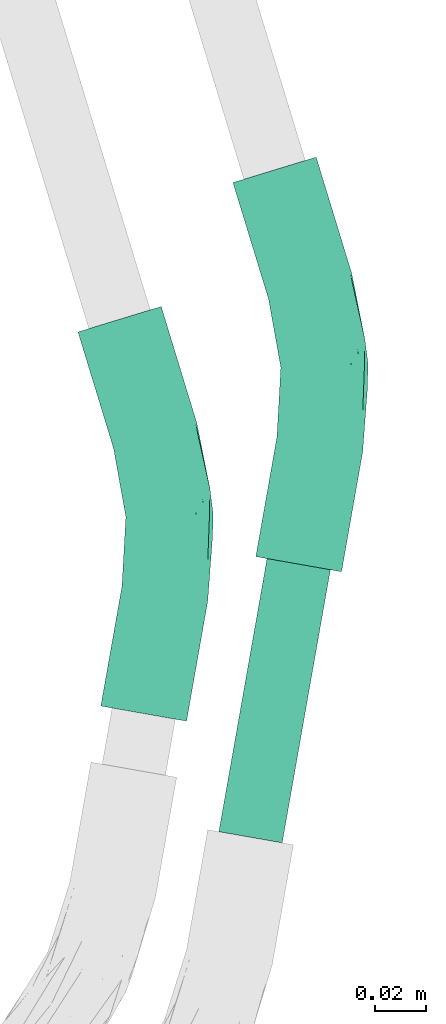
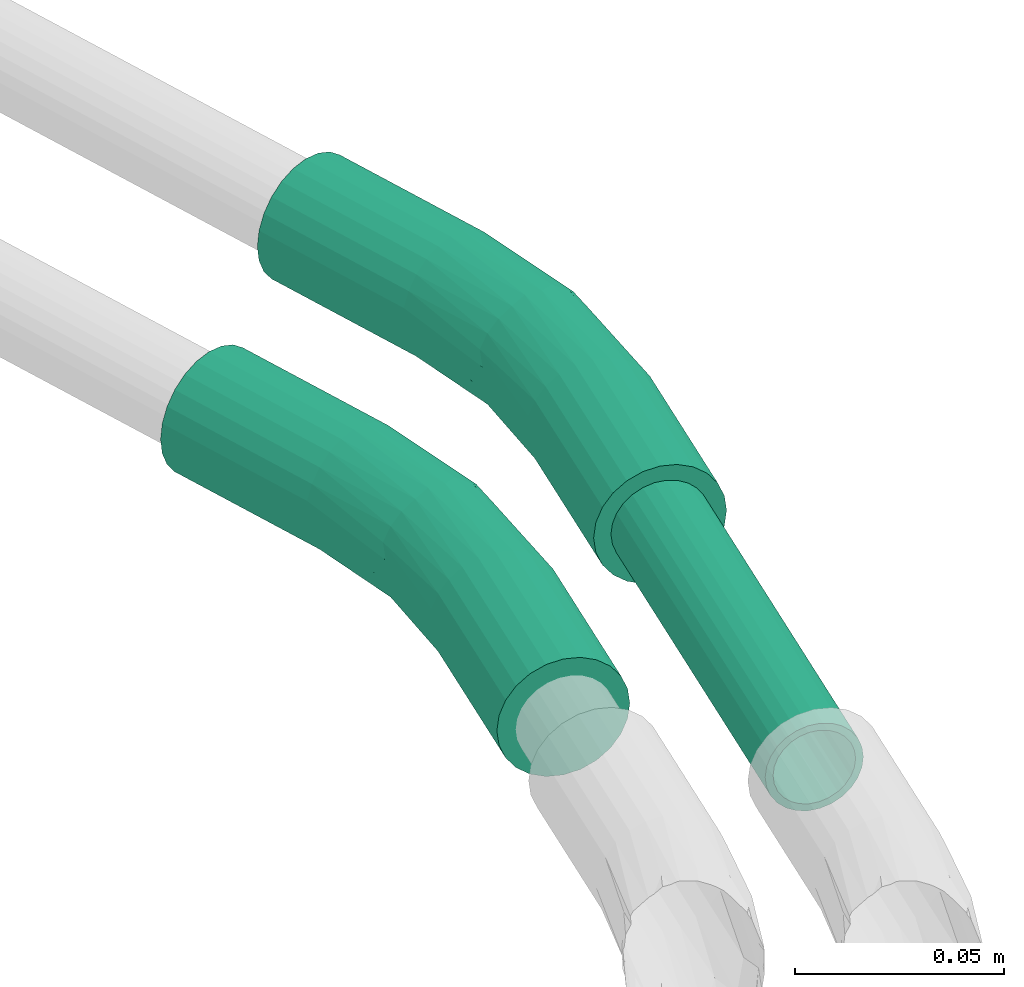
# One storey, part 16 of 22: 2 flow fittings, 1 flow segment.
"""IFC2X3 building model written with IfcOpenShell, lengths in millimetres."""

from ifc_helpers import new_model, entity, si_unit, converted_unit, derived_unit, direction, frame, origin_with_axes, origin_2d_with_axis, place, context, subcontext, project, spatial, hollow_circle, extrude, open_shell, surface_model, source, transform, mapped, type_object, element, save


model = new_model("IFC2X3")

# Units and contexts
model_context = context("Model", 3, precision=0.01, world=frame((0.0, 4.29681676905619e-09, 0.0)), true_north=direction((4.01073788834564e-13, 1.0)))
plan_context = context("Plan", 3, precision=0.01, world=frame((0.0, 4.29681676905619e-09, 0.0)), true_north=direction((4.01073788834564e-13, 1.0)))
body_context = subcontext(model_context, "Body", "Model", "MODEL_VIEW")
ifc_project = project(units=[converted_unit("PLANEANGLEUNIT", "DEGREE", entity("IfcPositiveLengthMeasure", 0.0174532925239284), si_unit("PLANEANGLEUNIT", "RADIAN"), dimensions=[0, 0, 0, 0, 0, 0, 0]), si_unit("AREAUNIT", "SQUARE_METRE"), si_unit("LENGTHUNIT", "METRE", prefix="MILLI"), si_unit("MASSUNIT", "GRAM", prefix="KILO"), si_unit("POWERUNIT", "WATT"), si_unit("PRESSUREUNIT", "PASCAL", prefix="KILO"), si_unit("FORCEUNIT", "NEWTON", prefix="KILO"), si_unit("ELECTRICVOLTAGEUNIT", "VOLT"), si_unit("ELECTRICCURRENTUNIT", "AMPERE"), si_unit("THERMODYNAMICTEMPERATUREUNIT", "DEGREE_CELSIUS"), si_unit("TIMEUNIT", "SECOND"), si_unit("VOLUMEUNIT", "CUBIC_METRE"), derived_unit("LINEARVELOCITYUNIT", [(si_unit("LENGTHUNIT", "METRE"), 1), (si_unit("TIMEUNIT", "SECOND"), -1)]), derived_unit("VOLUMETRICFLOWRATEUNIT", [(si_unit("VOLUMEUNIT", "CUBIC_METRE"), 1), (si_unit("TIMEUNIT", "SECOND"), -1)]), derived_unit("THERMALTRANSMITTANCEUNIT", [(si_unit("POWERUNIT", "WATT"), 1), (si_unit("THERMODYNAMICTEMPERATUREUNIT", "KELVIN"), -1), (si_unit("AREAUNIT", "SQUARE_METRE"), -1)]), derived_unit("SOUNDPRESSUREUNIT", [(si_unit("PRESSUREUNIT", "PASCAL"), 1)])], contexts=[model_context, plan_context])

# Site, building, storey
site_placement = place(None, frame((0.0, -4.29681676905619e-09, 0.0), z_axis=(0.0, 0.0, 1.0), x_axis=(1.0, 0.0, 0.0)))
site = spatial("IfcSite", under=ifc_project, at=site_placement, Name="ENGM", CompositionType="ELEMENT")
building_placement = place(site_placement, frame((0.0, 4.29681676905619e-09, 0.0), z_axis=(0.0, 0.0, 1.0), x_axis=(1.0, 0.0, 0.0)))
building = spatial("IfcBuilding", under=site, at=building_placement, Name="TI", CompositionType="ELEMENT")
storey_placement = place(building_placement, frame((0.0, 0.0, 210900.0), z_axis=(0.0, 0.0, 1.0), x_axis=(1.0, 0.0, 0.0)))
storey = spatial("IfcBuildingStorey", under=building, at=storey_placement, Name="Nivå F", CompositionType="ELEMENT", Elevation=210900.0)

# Flow fittings
cable_carrier_fitting_type = type_object("IfcCableCarrierFittingType", Name="Trekkerør, glatt bend", PredefinedType="BEND")
shared_shape_1 = source(origin_with_axes(), body_context, "Body", "SurfaceModel", [
    surface_model("IfcShellBasedSurfaceModel", [(-78.95754, 8.46055, -14.6541), (-78.95754, 4.3795, -16.34452), (-78.95754, 0.0, -16.92109), (-78.95754, -4.3795, -16.34452), (-78.95754, -8.46055, -14.6541), (-78.95754, -14.6541, -8.46055), (-78.95754, 16.92109, 0.0), (-78.95754, -11.96502, -11.96502), (-78.95754, -11.96502, 11.96502), (-78.95754, 14.6541, -8.46055), (-78.95754, 11.96502, -11.96502), (-78.95754, 16.34452, -4.3795), (-78.95754, -16.34452, -4.3795), (-78.95754, -16.92109, 0.0), (-78.95754, -16.34452, 4.3795), (-78.95754, -14.6541, 8.46055), (-78.95754, 0.0, 16.92109), (-78.95754, -8.46055, 14.6541), (-78.95754, -4.3795, 16.34452), (-78.95754, 14.6541, 8.46055), (-78.95754, 8.46055, 14.6541), (-78.95754, 11.96502, 11.96502), (-78.95754, 16.34452, 4.3795), (-78.95754, 4.3795, 16.34452), (-31.63957, 16.34452, 4.3795), (-31.63957, 16.92109, 0.0), (-31.63957, 14.6541, 8.46055), (-31.63957, 8.46055, 14.6541), (-31.63957, 11.96502, 11.96502), (-31.63957, 4.3795, 16.34452), (-31.63957, 0.0, 16.92109), (-31.63957, -8.46055, 14.6541), (-31.63957, -4.3795, 16.34452), (-31.63957, -11.96502, 11.96502), (-31.63957, -16.34452, 4.3795), (-31.63957, -14.6541, 8.46055), (-31.63957, -16.92109, 0.0), (-31.63957, -16.34452, -4.3795), (-31.63957, -14.6541, -8.46055), (-31.63957, -8.46055, -14.6541), (-31.63957, -11.96502, -11.96502), (-31.63957, -4.3795, -16.34452), (-31.63957, 0.0, -16.92109), (-31.63957, 8.46055, -14.6541), (-31.63957, 4.3795, -16.34452), (-31.63957, 11.96502, -11.96502), (-31.63957, 16.34452, -4.3795), (-31.63957, 14.6541, -8.46055), (-1.10332, 10.22349, 10.24195), (1.54545, 6.43726, 13.37501), (2.78273, 11.59092, 6.39757), (34.84388, -1.30717, 8.46055), (35.61132, 0.19901, 4.3795), (-1.45897, 3.21124, 15.60459), (-0.34065, -1.4189, 16.76603), (-2.18473, -5.5255, 16.78582), (-2.36982, -9.871, 15.66134), (28.19106, -14.36406, 16.92109), (30.17931, -10.4619, 16.34452), (32.03207, -6.82566, 14.6541), (33.62307, -3.70315, 11.96502), (-3.99795, -16.65265, 10.35717), (-3.26542, -13.60146, 13.46853), (-2.07775, -20.44675, 3.33516), (-4.51744, -18.81648, 6.53948), (-5.77387, 14.33246, 3.25985), (3.07595, 12.81224, 0.0), (24.35005, -21.90246, 14.6541), (26.20281, -18.26623, 16.34452), (-4.82435, -20.09488, 0.0), (35.87308, 0.71274, 0.0), (20.7708, -28.92714, 4.3795), (20.50905, -29.44087, 0.0), (22.75906, -25.02497, 11.96502), (21.53824, -27.42096, 8.46055), (-0.34065, -1.4189, -16.76603), (-7.43134, -19.16146, -3.33516), (-0.56192, -5.9151, -16.78582), (-4.51744, -18.81648, -6.53948), (35.61132, 0.19901, -4.3795), (2.78273, 11.59092, -6.39757), (11.65136, 10.14903, -3.25985), (-3.26542, -13.60146, -13.46853), (2.75782, 2.19888, -15.60459), (32.03207, -6.82566, -14.6541), (30.17931, -10.4619, -16.34452), (-2.36982, -9.871, -15.66134), (21.53824, -27.42096, -8.46055), (-3.99795, -16.65265, -10.35717), (1.54545, 6.43726, -13.37501), (5.62444, 8.6083, -10.24195), (20.7708, -28.92714, -4.3795), (24.35005, -21.90246, -14.6541), (22.75906, -25.02497, -11.96502), (34.84388, -1.30717, -8.46055), (33.62307, -3.70315, -11.96502), (26.20281, -18.26623, -16.34452), (28.19106, -14.36406, -16.92109), (70.35168, -35.84597, -16.92109), (72.33993, -31.94381, -16.34452), (68.36343, -39.74814, -16.34452), (66.51067, -43.38437, -14.6541), (63.69886, -48.90287, -8.46055), (64.91967, -46.50688, -11.96502), (77.77193, -21.2829, -4.3795), (77.0045, -22.78908, 8.46055), (74.19269, -28.30757, -14.6541), (75.78368, -25.18506, -11.96502), (77.0045, -22.78908, -8.46055), (78.0337, -20.76917, 0.0), (62.93142, -50.40905, -4.3795), (62.93142, -50.40905, 4.3795), (63.69886, -48.90287, 8.46055), (68.36343, -39.74814, 16.34452), (66.51067, -43.38437, 14.6541), (64.91967, -46.50688, 11.96502), (70.35168, -35.84597, 16.92109), (75.78368, -25.18506, 11.96502), (74.19269, -28.30757, 14.6541), (77.77193, -21.2829, 4.3795), (72.33993, -31.94381, 16.34452), (62.66966, -50.92278, 0.0)], [open_shell([[[0, 1, 2]], [[2, 3, 4]], [[2, 4, 5]], [[2, 5, 6]], [[5, 4, 7]], [[8, 6, 5]], [[0, 9, 10]], [[0, 11, 9]], [[0, 2, 11]], [[6, 11, 2]], [[5, 12, 8]], [[13, 14, 15]], [[13, 15, 8]], [[16, 6, 17]], [[6, 8, 17]], [[16, 17, 18]], [[19, 20, 21]], [[19, 22, 6]], [[20, 16, 23]], [[20, 19, 6]], [[20, 6, 16]], [[12, 13, 8]], [[24, 25, 22]], [[24, 19, 26]], [[27, 28, 20]], [[21, 28, 26]], [[29, 27, 23]], [[6, 22, 25]], [[22, 19, 24]], [[19, 21, 26]], [[21, 20, 28]], [[27, 20, 23]], [[23, 16, 29]], [[16, 30, 29]], [[31, 32, 17]], [[31, 8, 33]], [[34, 35, 14]], [[15, 35, 33]], [[36, 34, 13]], [[30, 18, 32]], [[18, 17, 32]], [[16, 18, 30]], [[17, 8, 31]], [[8, 15, 33]], [[35, 15, 14]], [[14, 13, 34]], [[37, 36, 12]], [[37, 5, 38]], [[39, 40, 4]], [[7, 40, 38]], [[41, 39, 3]], [[13, 12, 36]], [[12, 5, 37]], [[5, 7, 38]], [[7, 4, 40]], [[39, 4, 3]], [[3, 2, 41]], [[2, 42, 41]], [[43, 44, 0]], [[43, 10, 45]], [[46, 47, 11]], [[9, 47, 45]], [[25, 46, 6]], [[42, 1, 44]], [[1, 0, 44]], [[2, 1, 42]], [[0, 10, 43]], [[10, 9, 45]], [[47, 9, 11]], [[11, 6, 46]], [[48, 28, 49]], [[49, 28, 27]], [[48, 26, 28]], [[50, 51, 52]], [[53, 27, 29]], [[29, 54, 53]], [[55, 30, 32]], [[54, 29, 30]], [[55, 32, 56]], [[54, 57, 58]], [[24, 26, 50]], [[49, 59, 60]], [[35, 61, 33]], [[31, 33, 62]], [[50, 48, 51]], [[48, 50, 26]], [[49, 53, 59]], [[34, 63, 64]], [[24, 50, 65]], [[63, 34, 36]], [[64, 35, 34]], [[55, 54, 30]], [[56, 32, 31]], [[53, 49, 27]], [[65, 66, 25]], [[56, 67, 68]], [[58, 59, 53]], [[58, 53, 54]], [[36, 69, 63]], [[56, 68, 55]], [[48, 49, 60]], [[66, 65, 52]], [[51, 48, 60]], [[52, 70, 66]], [[24, 65, 25]], [[71, 64, 63]], [[72, 63, 69]], [[62, 73, 67]], [[31, 62, 56]], [[64, 71, 74]], [[62, 67, 56]], [[61, 74, 73]], [[62, 61, 73]], [[35, 64, 61]], [[64, 74, 61]], [[55, 68, 57]], [[33, 61, 62]], [[71, 63, 72]], [[65, 50, 52]], [[54, 55, 57]], [[75, 42, 44]], [[72, 69, 76]], [[37, 76, 36]], [[41, 42, 77]], [[37, 38, 78]], [[79, 80, 81]], [[39, 82, 40]], [[83, 84, 85]], [[86, 39, 41]], [[76, 37, 78]], [[87, 78, 88]], [[40, 88, 38]], [[46, 25, 66]], [[81, 80, 46]], [[43, 45, 89]], [[66, 81, 46]], [[80, 47, 46]], [[90, 45, 47]], [[43, 83, 44]], [[83, 75, 44]], [[76, 69, 36]], [[79, 81, 70]], [[76, 91, 72]], [[77, 86, 41]], [[90, 89, 45]], [[91, 78, 87]], [[92, 93, 82]], [[90, 94, 95]], [[86, 96, 92]], [[88, 40, 82]], [[92, 82, 86]], [[87, 88, 93]], [[78, 38, 88]], [[77, 96, 86]], [[75, 83, 85]], [[77, 75, 97]], [[89, 83, 43]], [[95, 84, 89]], [[80, 79, 94]], [[80, 90, 47]], [[81, 66, 70]], [[77, 97, 96]], [[90, 80, 94]], [[89, 90, 95]], [[83, 89, 84]], [[97, 75, 85]], [[75, 77, 42]], [[76, 78, 91]], [[93, 88, 82]], [[82, 39, 86]], [[98, 99, 100]], [[101, 100, 102]], [[102, 100, 99]], [[103, 101, 102]], [[102, 104, 105]], [[106, 107, 99]], [[104, 99, 107]], [[108, 104, 107]], [[104, 102, 99]], [[109, 105, 104]], [[110, 102, 111]], [[102, 112, 111]], [[105, 112, 102]], [[112, 113, 114]], [[115, 112, 114]], [[113, 112, 116]], [[117, 118, 105]], [[105, 109, 119]], [[120, 116, 118]], [[105, 118, 116]], [[105, 116, 112]], [[110, 111, 121]], [[119, 109, 52]], [[119, 51, 105]], [[118, 117, 59]], [[60, 117, 105]], [[120, 118, 58]], [[70, 52, 109]], [[52, 51, 119]], [[51, 60, 105]], [[60, 59, 117]], [[118, 59, 58]], [[58, 57, 120]], [[57, 116, 120]], [[114, 113, 67]], [[114, 73, 115]], [[111, 112, 71]], [[74, 112, 115]], [[121, 111, 72]], [[116, 68, 113]], [[68, 67, 113]], [[57, 68, 116]], [[67, 73, 114]], [[73, 74, 115]], [[112, 74, 71]], [[71, 72, 111]], [[110, 121, 72]], [[110, 91, 102]], [[96, 100, 101]], [[93, 101, 103]], [[103, 102, 87]], [[91, 87, 102]], [[110, 72, 91]], [[92, 101, 93]], [[96, 101, 92]], [[96, 97, 100]], [[103, 87, 93]], [[97, 98, 100]], [[106, 99, 84]], [[106, 95, 107]], [[104, 108, 79]], [[94, 108, 107]], [[109, 104, 70]], [[98, 85, 99]], [[85, 84, 99]], [[97, 85, 98]], [[84, 95, 106]], [[95, 94, 107]], [[108, 94, 79]], [[79, 70, 104]]])]),
])
for number, where, z_axis, x_axis, name in (
    (1, (600978.31748, 571894.09393, -56.7999999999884), (0.0, 0.0, 1.0), (0.292371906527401, -0.956304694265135, 0.0), "Trekkerør, glatt bend"),
    (2, (600918.0788, 571836.02746, -56.7999999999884), (0.0, 0.0, 1.0), (0.292371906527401, -0.956304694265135, 0.0), "Trekkerør, glatt bend"),
):
    element("IfcFlowFitting", number, at=place(storey_placement, frame(where, z_axis=z_axis, x_axis=x_axis)), inside=storey, type_object=cable_carrier_fitting_type, Name=name, context=body_context, shape_type="MappedRepresentation", body=[
        mapped(shared_shape_1, transform((0.0, 0.0, 0.0), scale=1.0)),
    ])

# Flow segment
cable_carrier_segment_type = type_object("IfcCableCarrierSegmentType", Name="Trekkerør, korrugert", PredefinedType="CONDUITSEGMENT")
shared_shape_2 = source(origin_with_axes(), body_context, "Body", "SweptSolid", [
    extrude(hollow_circle(Radius=12.5, WallThickness=2.0, at=origin_2d_with_axis()), frame((0.0, 0.0, 0.0), z_axis=(1.0, 0.0, 0.0), x_axis=(0.0, 1.0, 0.0)), (0.0, 0.0, 1.0), 107.8),
])
flow_segment_placement = place(storey_placement, frame((600945.89054, 571710.19163, -56.7999999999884), z_axis=(0.0, 0.0, 1.0), x_axis=(0.173647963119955, 0.984807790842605, 0.0)))
element("IfcFlowSegment", 3, at=flow_segment_placement, inside=storey, type_object=cable_carrier_segment_type, Name="Trekkerør, korrugert", context=body_context, shape_type="MappedRepresentation", body=[
    mapped(shared_shape_2, transform((0.0, 0.0, 0.0), scale=1.0)),
])

save(model, "model.ifc")
